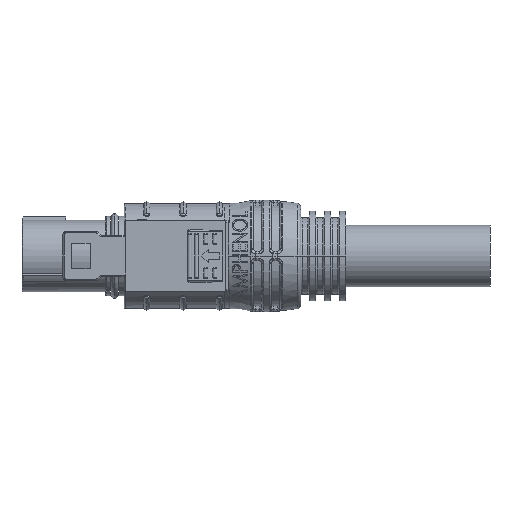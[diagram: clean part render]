
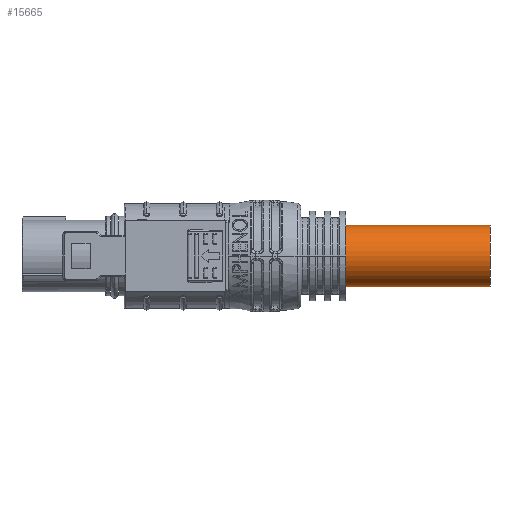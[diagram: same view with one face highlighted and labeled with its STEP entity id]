
A CAD part, front view. The second image highlights one B-rep face of the part: STEP entity #15665.
In plain terms, the highlighted cylindrical face has radius 6.75 mm (diameter 13.5 mm), a partial arc.
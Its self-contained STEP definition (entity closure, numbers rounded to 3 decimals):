
#1437 = LINE ( 'NONE', #14345, #20643 ) ;
#1516 = DIRECTION ( 'NONE',  ( -1., 0., 0. ) ) ;
#1758 = CIRCLE ( 'NONE', #10414, 6.75 ) ;
#1790 = ORIENTED_EDGE ( 'NONE', *, *, #12121, .F. ) ;
#2072 = VERTEX_POINT ( 'NONE', #10782 ) ;
#3983 = EDGE_CURVE ( 'NONE', #11689, #2072, #1758, .T. ) ;
#4504 = AXIS2_PLACEMENT_3D ( 'NONE', #9193, #22204, #11070 ) ;
#5389 = EDGE_LOOP ( 'NONE', ( #6258, #20931, #22301, #1790 ) ) ;
#5656 = CARTESIAN_POINT ( 'NONE',  ( 79.703, 1.984, -6.75 ) ) ;
#6258 = ORIENTED_EDGE ( 'NONE', *, *, #15771, .F. ) ;
#6648 = DIRECTION ( 'NONE',  ( -1., 0., 0. ) ) ;
#7073 = AXIS2_PLACEMENT_3D ( 'NONE', #19666, #6648, #17808 ) ;
#7514 = LINE ( 'NONE', #14540, #12451 ) ;
#8108 = CYLINDRICAL_SURFACE ( 'NONE', #7073, 6.75 ) ;
#9144 = CARTESIAN_POINT ( 'NONE',  ( 47.923, 1.984, -6.75 ) ) ;
#9193 = CARTESIAN_POINT ( 'NONE',  ( 47.923, 1.984, 0. ) ) ;
#9364 = CARTESIAN_POINT ( 'NONE',  ( 79.703, 1.984, 0. ) ) ;
#10414 = AXIS2_PLACEMENT_3D ( 'NONE', #9364, #22353, #11221 ) ;
#10782 = CARTESIAN_POINT ( 'NONE',  ( 79.703, 1.984, 6.75 ) ) ;
#11070 = DIRECTION ( 'NONE',  ( 0., 0., 1. ) ) ;
#11127 = EDGE_CURVE ( 'NONE', #2072, #24093, #1437, .T. ) ;
#11221 = DIRECTION ( 'NONE',  ( 0., 0., 1. ) ) ;
#11689 = VERTEX_POINT ( 'NONE', #5656 ) ;
#12121 = EDGE_CURVE ( 'NONE', #12856, #24093, #17142, .T. ) ;
#12451 = VECTOR ( 'NONE', #1516, 1000. ) ;
#12856 = VERTEX_POINT ( 'NONE', #9144 ) ;
#14234 = FACE_OUTER_BOUND ( 'NONE', #5389, .T. ) ;
#14345 = CARTESIAN_POINT ( 'NONE',  ( -4.577, 1.984, 6.75 ) ) ;
#14540 = CARTESIAN_POINT ( 'NONE',  ( -4.577, 1.984, -6.75 ) ) ;
#15665 = ADVANCED_FACE ( 'NONE', ( #14234 ), #8108, .T. ) ;
#15771 = EDGE_CURVE ( 'NONE', #11689, #12856, #7514, .T. ) ;
#17142 = CIRCLE ( 'NONE', #4504, 6.75 ) ;
#17808 = DIRECTION ( 'NONE',  ( 0., 0., 1. ) ) ;
#19666 = CARTESIAN_POINT ( 'NONE',  ( -4.577, 1.984, 0. ) ) ;
#20643 = VECTOR ( 'NONE', #23693, 1000. ) ;
#20931 = ORIENTED_EDGE ( 'NONE', *, *, #3983, .T. ) ;
#22138 = CARTESIAN_POINT ( 'NONE',  ( 47.923, 1.984, 6.75 ) ) ;
#22204 = DIRECTION ( 'NONE',  ( -1., 0., 0. ) ) ;
#22301 = ORIENTED_EDGE ( 'NONE', *, *, #11127, .T. ) ;
#22353 = DIRECTION ( 'NONE',  ( -1., 0., 0. ) ) ;
#23693 = DIRECTION ( 'NONE',  ( -1., 0., 0. ) ) ;
#24093 = VERTEX_POINT ( 'NONE', #22138 ) ;
